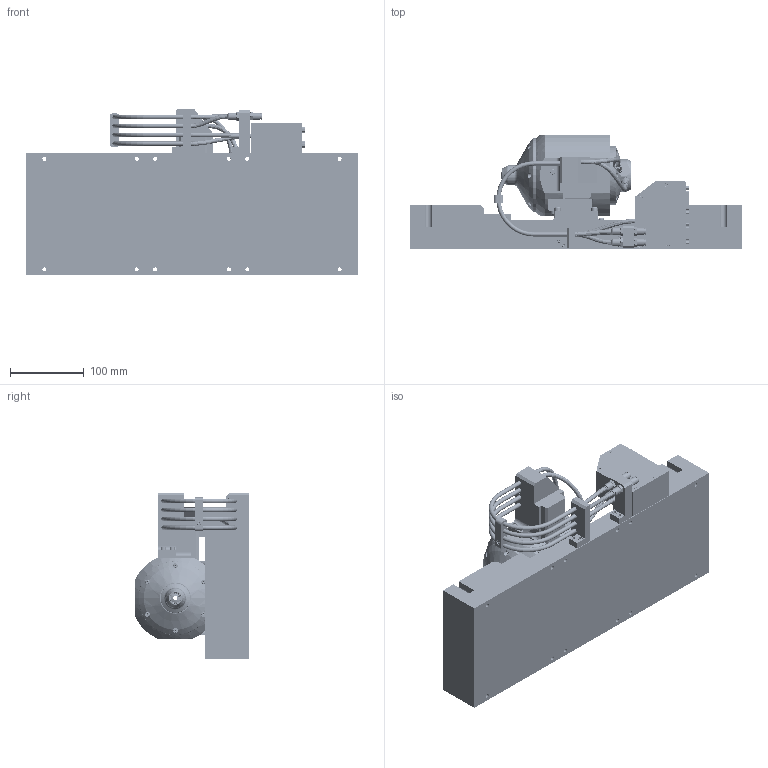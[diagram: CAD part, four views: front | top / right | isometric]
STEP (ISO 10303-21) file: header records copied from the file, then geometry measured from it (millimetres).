
FILE_DESCRIPTION (( 'STEP AP214' ), '1' );
FILE_NAME ('PLR-100-1C-EXPORT.STEP', '2026-09-01T14:27:50', ( 'lab' ), ( '' ), 'SwSTEP 2.0', 'SolidWorks 2018', '' );
FILE_SCHEMA (( 'AUTOMOTIVE_DESIGN' ));
Length unit declared in the file: millimetre
Products named in the file (31): PLR-100-1C-EXPORT; 91292A128; 29565; 91292A117_91292A117; 91292A129_91292A129; 1CR-PLR-100-EXPORT; 29563; 29933-EXPORT; 91292A113_91292A113; 91292A043; 29523; 29562; PLR-100-Sled-EXPORT; 3101 06 19_file_export4; SDG400S-EXPORT; 9262K629_9262K629; 1CR Piston-EXPORT; DB26HD-M-EXPORT; PLR-100-Cable-Visual; 91292A118_MC-416; PLR-100 Rotary Connector Box-EXPORT; 1C Collet; 29564; PLR-100-Linear Base-EXPORT; 29566; 29588; 29524; Levin-D Spindle Body-EXPORT; 91292A114_91292A114; DB9-M-EXPORT; 1CR Shaft-EXPORT
Assembly tree (68 placements, depth 3):
  PLR-100-1C-EXPORT
    PLR-100-Linear Base-EXPORT
    SDG400S-EXPORT  x8
    DB9-M-EXPORT  x2
    DB26HD-M-EXPORT  x2
    PLR-100-Sled-EXPORT
    91292A118_MC-416  x4
    29588
    1CR-PLR-100-EXPORT
      3101 06 19_file_export4  x2
      1CR Shaft-EXPORT
      Levin-D Spindle Body-EXPORT
      29933-EXPORT
      1C Collet
      9262K629_9262K629
      1CR Piston-EXPORT
      91292A129_91292A129  x4
      29523
      29524
      PLR-100 Rotary Connector Box-EXPORT
      29563
      91292A117_91292A117  x4
      29562
      91292A043  x2
    91292A128  x4
    91292A114_91292A114  x4
    91292A117_91292A117  x4
    29564
    29563
    29562
    3101 06 19_file_export4  x4
    29565
    PLR-100-Cable-Visual
    91292A113_91292A113  x2
    29566  x2
Bounding box: 450 x 155 x 225 mm (x, y, z)
Volume: 5273045.3 mm3; surface area: 742340 mm2
Topology: 181 solids, 181 shells, 5119 faces, 11820 edges, 7127 vertices
Faces by surface type: plane 2184, cylinder 1336, cone 985, bspline 423, torus 184, sphere 7
Entity records: 137534 total; most frequent: CARTESIAN_POINT 52359, DIRECTION 15892, ORIENTED_EDGE 15366, EDGE_CURVE 7683, AXIS2_PLACEMENT_3D 5911, VERTEX_POINT 4790, LINE 4070, VECTOR 4070
